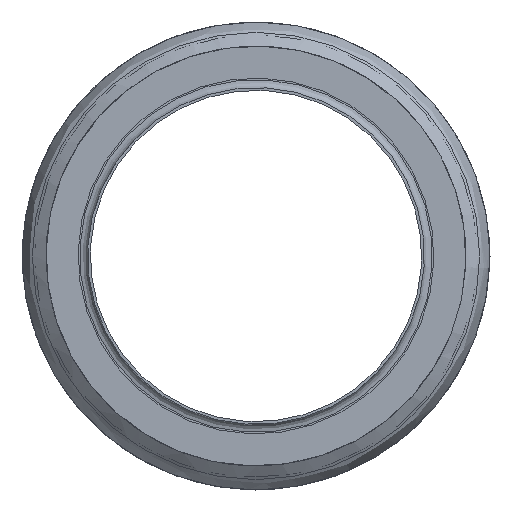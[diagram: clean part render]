
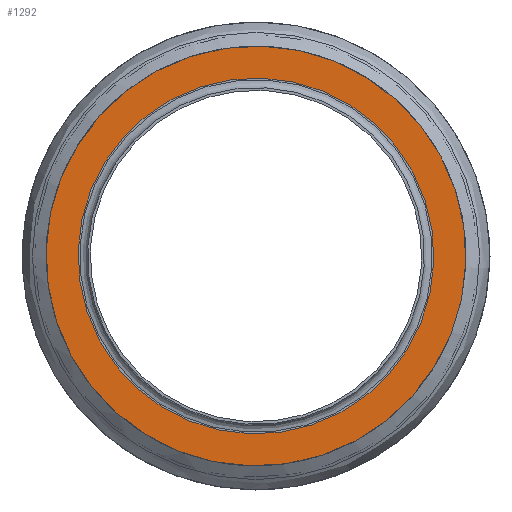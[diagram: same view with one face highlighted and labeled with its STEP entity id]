
A CAD part, front view. The second image highlights one B-rep face of the part: STEP entity #1292.
In plain terms, the highlighted planar face has unit normal (0, -1, 0) as drawn and (0, 1, 0) by its records, which use the part's own axes.
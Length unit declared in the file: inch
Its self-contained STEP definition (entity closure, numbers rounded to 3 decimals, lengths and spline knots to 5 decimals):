
#1230=CARTESIAN_POINT('',(-0.805,2.0,0.));
#1231=VERTEX_POINT('',#1230);
#1232=CARTESIAN_POINT('',(0.0,2.0,0.0));
#1233=DIRECTION('',(0.0,-1.0,0.0));
#1234=DIRECTION('',(1.0,0.0,0.0));
#1235=AXIS2_PLACEMENT_3D('',#1232,#1233,#1234);
#1236=CIRCLE('',#1235,0.805);
#1237=EDGE_CURVE('',#1231,#1231,#1236,.T.);
#1258=CARTESIAN_POINT('',(-0.95,2.0,0.));
#1259=VERTEX_POINT('',#1258);
#1260=CARTESIAN_POINT('',(0.0,2.0,0.0));
#1261=DIRECTION('',(0.0,-1.0,0.0));
#1262=DIRECTION('',(1.0,0.0,0.0));
#1263=AXIS2_PLACEMENT_3D('',#1260,#1261,#1262);
#1264=CIRCLE('',#1263,0.95);
#1265=EDGE_CURVE('',#1259,#1259,#1264,.T.);
#1281=CARTESIAN_POINT('',(0.0,2.0,0.0));
#1282=DIRECTION('',(0.0,-1.0,0.0));
#1283=DIRECTION('',(0.0,0.0,-1.0));
#1284=AXIS2_PLACEMENT_3D('',#1281,#1282,#1283);
#1285=PLANE('',#1284);
#1286=ORIENTED_EDGE('',*,*,#1265,.F.);
#1287=EDGE_LOOP('',(#1286));
#1288=FACE_OUTER_BOUND('',#1287,.T.);
#1289=ORIENTED_EDGE('',*,*,#1237,.T.);
#1290=EDGE_LOOP('',(#1289));
#1291=FACE_BOUND('',#1290,.T.);
#1292=ADVANCED_FACE('',(#1288,#1291),#1285,.F.);
